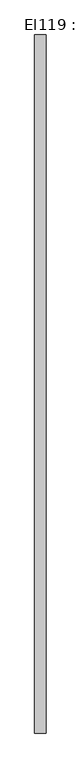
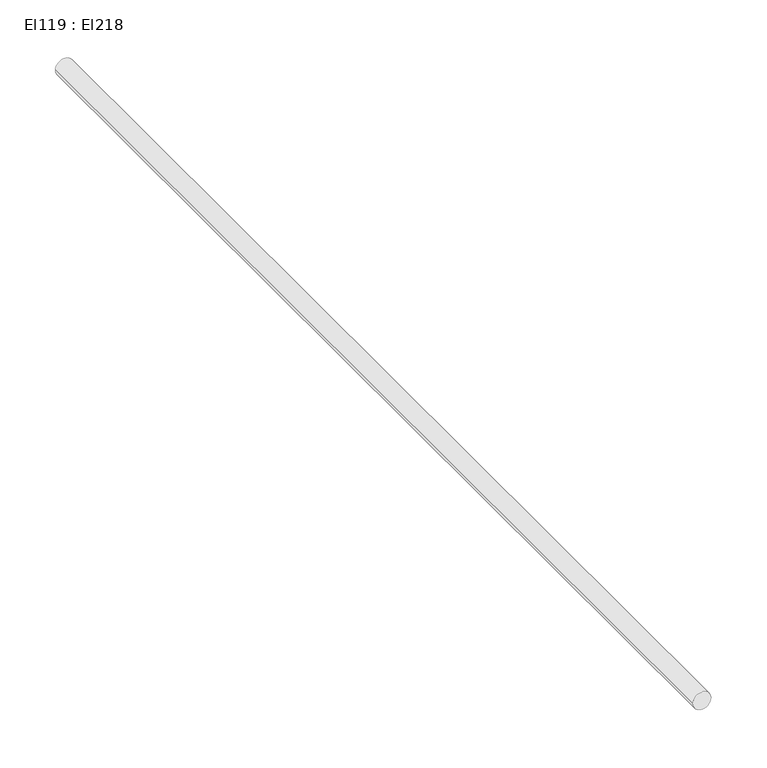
"""IFC4 building model written with IfcOpenShell, lengths in millimetres: cable carrier segment geometry, El119 : El218."""

from ifc_helpers import new_model, si_unit, point, frame, frame_2d, origin, place, context, project, spatial, circle_curve, trimmed, segment, composite_curve, outline, extrude, source, transform, mapped, element, save


def el119_el218_bef86459(model_context):
    return source(origin(), model_context, "Body", "SweptSolid", [
        extrude(outline(composite_curve([segment(trimmed(circle_curve(frame_2d((2700.0, 2714.4746511)), 9.5), [point((2700.0, 2704.9746511))], [point((2700.0, 2723.9746511))], False, "CARTESIAN"), True, "CONTINUOUS"), segment(trimmed(circle_curve(frame_2d((2700.0, 2714.4746511)), 9.5), [point((2700.0, 2723.9746511))], [point((2700.0, 2704.9746511))], False, "CARTESIAN"), True, "CONTINUOUS")], self_intersect=False)), frame((0.0, 15067.1411745, 0.0), z_axis=(0.0, 1.0, 0.0), x_axis=(0.0, 0.0, 1.0)), (0.0, 0.0, 1.0), 1148.34),
    ])


if __name__ == "__main__":
    model = new_model("IFC4")
    model_context = context("Model", 3, world=origin())
    ifc_project = project(units=[si_unit("LENGTHUNIT", "METRE", prefix="MILLI")], contexts=[model_context])
    site = spatial("IfcSite", under=ifc_project)
    building = spatial("IfcBuilding", under=site)
    placement = place(None, origin())
    el119_el218_shape = el119_el218_bef86459(model_context)
    element("IfcCableCarrierSegment", 1, ObjectType="El119 : El218", at=placement, inside=building, context=model_context, shape_type="MappedRepresentation", body=[
        mapped(el119_el218_shape, transform((0.0, 0.0, 0.0), x_axis=(1.0, 0.0, 0.0), y_axis=(0.0, 1.0, 0.0), z_axis=(0.0, 0.0, 1.0))),
    ])
    save(model, "model.ifc")
